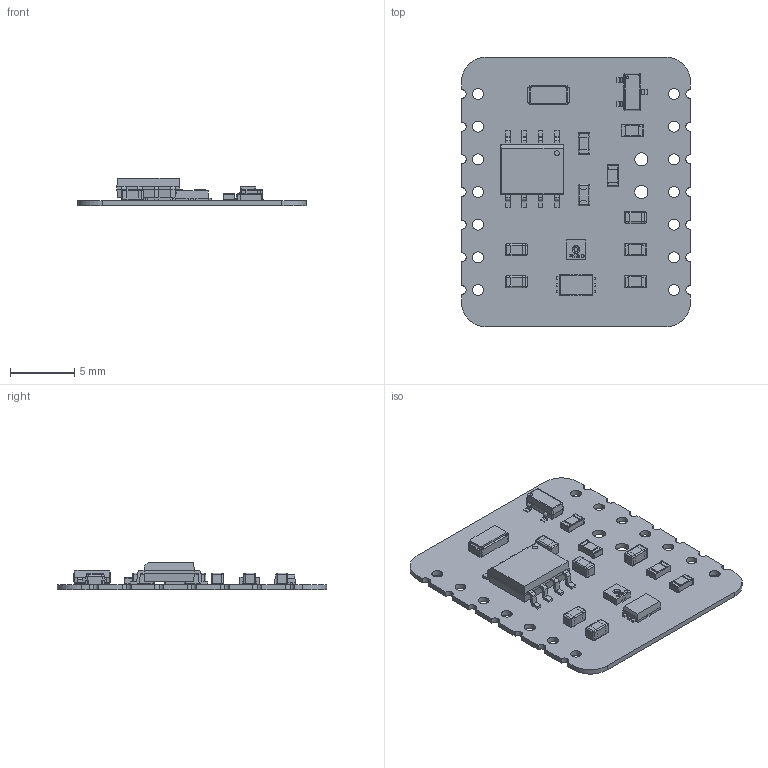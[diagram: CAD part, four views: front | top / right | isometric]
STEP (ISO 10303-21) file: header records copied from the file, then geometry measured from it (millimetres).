
FILE_DESCRIPTION(('Open CASCADE Model'),'2;1');
FILE_NAME('Open CASCADE Shape Model','2024-09-11T21:11:44',('Author'),( 'Open CASCADE'),'Open CASCADE STEP processor 6.8','Open CASCADE 6.8' ,'Unknown');
FILE_SCHEMA(('AUTOMOTIVE_DESIGN { 1 0 10303 214 1 1 1 1 }'));
Length unit declared in the file: millimetre
Products named in the file (29): PCB; Board; Open CASCADE STEP translator 6.8 2.1.1; Open CASCADE STEP translator 6.8 2.1.1.1; U2; PCF8563T_F4,112; R5; 0603R; Open CASCADE STEP translator 6.8 2.3.1.1; Open CASCADE STEP translator 6.8 2.3.1.2; R4; Q4; SOT-23-3; C5; 0603C; Open CASCADE STEP translator 6.8 2.6.1.1; Open CASCADE STEP translator 6.8 2.6.1.2; R1; U3; WSOF6; C4; Y1; FC135; U1; SHT40; R2; C1; C3; C2
Assembly tree (35 placements, depth 4):
  PCB
    Board
      Open CASCADE STEP translator 6.8 2.1.1
        Open CASCADE STEP translator 6.8 2.1.1.1
    U2
      PCF8563T_F4,112
    R5
      0603R
        Open CASCADE STEP translator 6.8 2.3.1.1
        Open CASCADE STEP translator 6.8 2.3.1.2
    R4
      0603R
        Open CASCADE STEP translator 6.8 2.3.1.1
        Open CASCADE STEP translator 6.8 2.3.1.2
    Q4
      SOT-23-3
    C5
      0603C
        Open CASCADE STEP translator 6.8 2.6.1.1
        Open CASCADE STEP translator 6.8 2.6.1.2
    R1
      0603R
        Open CASCADE STEP translator 6.8 2.3.1.1
        Open CASCADE STEP translator 6.8 2.3.1.2
    U3
      WSOF6
    C4
      0603C
        Open CASCADE STEP translator 6.8 2.6.1.1
        Open CASCADE STEP translator 6.8 2.6.1.2
    Y1
      FC135
    U1
      SHT40
    R2
      0603R
        Open CASCADE STEP translator 6.8 2.3.1.1
        Open CASCADE STEP translator 6.8 2.3.1.2
    C1
      0603C
        Open CASCADE STEP translator 6.8 2.6.1.1
        Open CASCADE STEP translator 6.8 2.6.1.2
    C3
      0603C
        Open CASCADE STEP translator 6.8 2.6.1.1
        Open CASCADE STEP translator 6.8 2.6.1.2
    C2
      0603C
        Open CASCADE STEP translator 6.8 2.6.1.1
        Open CASCADE STEP translator 6.8 2.6.1.2
Bounding box: 17.78 x 20.96 x 2.16 mm (x, y, z)
Volume: 197.9 mm3; surface area: 1003.4 mm2
Topology: 52 solids, 52 shells, 1072 faces, 2774 edges, 1852 vertices
Faces by surface type: plane 694, cylinder 298, sphere 40, bspline 16, cone 8, revolution 8, torus 8
Full cylindrical faces by diameter (mm): 0.85 x14, 1.02 x2
Entity records: 25602 total; most frequent: CARTESIAN_POINT 4992, DIRECTION 3788, ORIENTED_EDGE 3752, EDGE_CURVE 1876, LINE 1444, VECTOR 1444, VERTEX_POINT 1220, AXIS2_PLACEMENT_3D 1168
